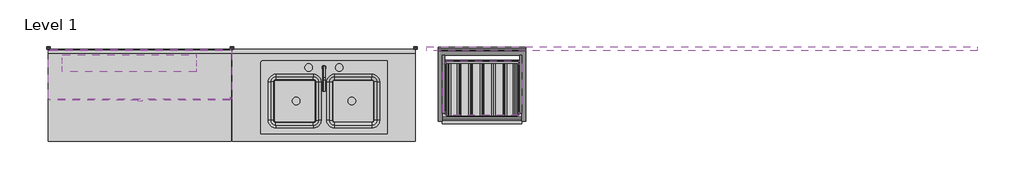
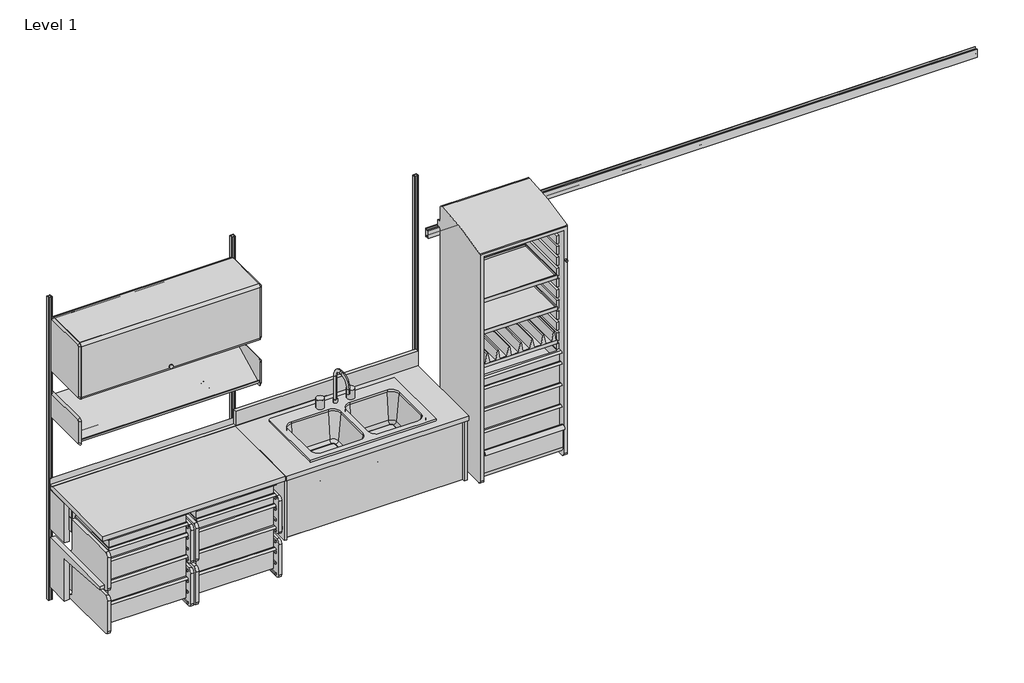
# One storey: 36 furniture elements, 1 light fixture.
"""IFC4 building model written with IfcOpenShell, lengths in millimetres."""

from ifc_helpers import new_model, si_unit, origin, place, context, project, spatial, transform, mapped, element, save
from components import furniture_d92eedc3, furniture_1dd29d47, furniture_6fb4d38e, furniture_1862b397, furniture_b82473b3, furniture_e3b85a83, furniture_ac9ddba1, furniture_b5d96ffa, furniture_ea4a19f1, furniture_bde3683d, furniture_de886b3f, furniture_abf15333, furniture_2c2a0f93, furniture_4a924b53, furniture_326329ec, furniture_ea425779, a_3_99eb42a9, a_3_20021f84, a_3_c1a7feba, b_6_ff784f8a, b_6_0a80589c, b_6_5c18262e, b_6_79354f33, b_6_c41737b1, b_6_7aba6d1f, b_6_3d2ec204, b_6_4c31ebbb, b_6_ad6fc926, standard_144w_a9847ba4, light_fixture_a1dc7b85

model = new_model("IFC4")

# Units and contexts
model_context = context("Model", 3, world=origin())
ifc_project = project(units=[si_unit("LENGTHUNIT", "METRE", prefix="MILLI")], contexts=[model_context])

# Site, building, storey
site = spatial("IfcSite", under=ifc_project)
building = spatial("IfcBuilding", under=site)
storey = spatial("IfcBuildingStorey", under=building, Name="Level 1", Elevation=0.0)

# Furniture
placement = place(None, origin())
furniture_shape = furniture_d92eedc3(model_context)
element("IfcFurniture", 1, ObjectType="HermanMiller_CoStruc_C2910_WorkSurfaceBacksplash : 3\"H x 72\"W", at=placement, inside=storey, context=model_context, shape_type="MappedRepresentation", body=[
    mapped(furniture_shape, transform((914.4, -19.05, 0.0), x_axis=(1.0, 0.0, 0.0), y_axis=(0.0, 1.0, 0.0), z_axis=(0.0, 0.0, 1.0))),
])
furniture_2_shape = furniture_1dd29d47(model_context)
element("IfcFurniture", 2, ObjectType="HermanMiller_CoStruc_C2192_CFrameSupport : 11\"H x 24\"D x 48\"W", at=placement, inside=storey, context=model_context, shape_type="MappedRepresentation", body=[
    mapped(furniture_2_shape, transform((609.6, 107.15625, 0.0), x_axis=(1.0, 0.0, 0.0), y_axis=(0.0, 1.0, 0.0), z_axis=(0.0, 0.0, 1.0))),
])
furniture_3_shape = furniture_6fb4d38e(model_context)
element("IfcFurniture", 3, ObjectType="HermanMiller_CoStruc_CO242_Subdivider Vane : 2 5/8\"Hx13 3/4\"D x 18 1/2\"W", at=placement, inside=storey, context=model_context, shape_type="MappedRepresentation", body=[
    mapped(furniture_3_shape, transform((2880.5390317, -286.23514, 0.0), x_axis=(1.0, 0.0, 0.0), y_axis=(0.0, 1.0, 0.0), z_axis=(0.0, 0.0, 1.0))),
])
furniture_4_shape = furniture_1862b397(model_context)
element("IfcFurniture", 4, ObjectType="HermanMiller_CoStruc_CO203_CTrayShelf : 14\"D x 20\"W", at=placement, inside=storey, context=model_context, shape_type="MappedRepresentation", body=[
    mapped(furniture_4_shape, transform((2882.19388, -275.50364, 0.0), x_axis=(-1.0, 0.0, 0.0), y_axis=(0.0, -1.0, 0.0), z_axis=(0.0, 0.0, 1.0))),
])
furniture_5_shape = furniture_b82473b3(model_context)
element("IfcFurniture", 5, ObjectType="HermanMiller_CoStruc_CO203_CTrayShelf : 14\"D x 20\"W", at=placement, inside=storey, context=model_context, shape_type="MappedRepresentation", body=[
    mapped(furniture_5_shape, transform((2882.19388, -275.50364, 0.0), x_axis=(-1.0, 0.0, 0.0), y_axis=(0.0, -1.0, 0.0), z_axis=(0.0, 0.0, 1.0))),
])
furniture_6_shape = furniture_e3b85a83(model_context)
element("IfcFurniture", 6, ObjectType="HermanMiller_CoStruc_CO203_CTrayShelf : 14\"D x 20\"W", at=placement, inside=storey, context=model_context, shape_type="MappedRepresentation", body=[
    mapped(furniture_6_shape, transform((2882.19388, -275.50364, 0.0), x_axis=(-1.0, 0.0, 0.0), y_axis=(0.0, -1.0, 0.0), z_axis=(0.0, 0.0, 1.0))),
])
furniture_7_shape = furniture_ac9ddba1(model_context)
element("IfcFurniture", 7, ObjectType="HermanMiller_CoStruc_CO561_LockerWithTambourDoor : 66\"H x 20\"D x 22\"W Wlock", at=placement, inside=storey, context=model_context, shape_type="MappedRepresentation", body=[
    mapped(furniture_7_shape, transform((2880.54542, -249.27052, 0.0), x_axis=(1.0, 0.0, 0.0), y_axis=(0.0, 1.0, 0.0), z_axis=(0.0, 0.0, 1.0))),
])
furniture_8_shape = furniture_b5d96ffa(model_context)
element("IfcFurniture", 8, ObjectType="HermanMiller_CoStruc_C2142_StandardDutyWork Surface_WithSink : 24\"D x 48\"W Solid W/Dbl Sink", at=placement, inside=storey, context=model_context, shape_type="MappedRepresentation", body=[
    mapped(furniture_8_shape, transform((1828.8, -196.85, 0.0), x_axis=(1.0, 0.0, 0.0), y_axis=(0.0, 1.0, 0.0), z_axis=(0.0, 0.0, 1.0))),
])
furniture_9_shape = furniture_ea4a19f1(model_context)
element("IfcFurniture", 9, ObjectType="HermanMiller_CoStruc_C2512_SinkModule : 18\"H x 24\"D x 48\"W", at=placement, inside=storey, context=model_context, shape_type="MappedRepresentation", body=[
    mapped(furniture_9_shape, transform((1827.23536, -187.325, 0.0), x_axis=(1.0, 0.0, 0.0), y_axis=(0.0, 1.0, 0.0), z_axis=(0.0, 0.0, 1.0))),
])
furniture_10_shape = furniture_bde3683d(model_context)
element("IfcFurniture", 10, ObjectType="HermanMiller_CoStruc_CO205_CFrame : 10\"H x 17\"D x 22\"W", at=placement, inside=storey, context=model_context, shape_type="MappedRepresentation", body=[
    mapped(furniture_10_shape, transform((224.2132951, -271.6421197, 0.0), x_axis=(1.0, 0.0, 0.0), y_axis=(0.0, 1.0, 0.0), z_axis=(0.0, 0.0, 1.0))),
])
element("IfcFurniture", 11, ObjectType="HermanMiller_CoStruc_CO205_CFrame : 10\"H x 17\"D x 22\"W", at=placement, inside=storey, context=model_context, shape_type="MappedRepresentation", body=[
    mapped(furniture_10_shape, transform((810.0947751, -271.6421197, 0.0), x_axis=(1.0, 0.0, 0.0), y_axis=(0.0, 1.0, 0.0), z_axis=(0.0, 0.0, 1.0))),
])
furniture_11_shape = furniture_de886b3f(model_context)
element("IfcFurniture", 12, ObjectType="HermanMiller_CoStruc_C2141_Heavy-DutyWorkSurface : 24\"D x 48\"W Lam", at=placement, inside=storey, context=model_context, shape_type="MappedRepresentation", body=[
    mapped(furniture_11_shape, transform((303.23536, -196.85, 0.0), x_axis=(1.0, 0.0, 0.0), y_axis=(0.0, 1.0, 0.0), z_axis=(0.0, 0.0, 1.0))),
])
furniture_12_shape = furniture_abf15333(model_context)
element("IfcFurniture", 13, ObjectType="HermanMiller_CoStruc_C2140W_WorkSurfaceSupport_ComponentAdaptor : 14\"H x 24\"D x 48\"W", at=placement, inside=storey, context=model_context, shape_type="MappedRepresentation", body=[
    mapped(furniture_12_shape, transform((608.03536, -196.85, 0.0), x_axis=(1.0, 0.0, 0.0), y_axis=(0.0, 1.0, 0.0), z_axis=(0.0, 0.0, 1.0))),
])
furniture_13_shape = furniture_2c2a0f93(model_context)
element("IfcFurniture", 14, ObjectType="HermanMiller_CoStruc_CO205_CFrame : 10\"H x 17\"D x 22\"W", at=placement, inside=storey, context=model_context, shape_type="MappedRepresentation", body=[
    mapped(furniture_13_shape, transform((224.2132951, -271.6421197, 0.0), x_axis=(1.0, 0.0, 0.0), y_axis=(0.0, 1.0, 0.0), z_axis=(0.0, 0.0, 1.0))),
])
element("IfcFurniture", 15, ObjectType="HermanMiller_CoStruc_CO205_CFrame : 10\"H x 17\"D x 22\"W", at=placement, inside=storey, context=model_context, shape_type="MappedRepresentation", body=[
    mapped(furniture_13_shape, transform((810.0947751, -271.6421197, 0.0), x_axis=(1.0, 0.0, 0.0), y_axis=(0.0, 1.0, 0.0), z_axis=(0.0, 0.0, 1.0))),
])
furniture_14_shape = furniture_4a924b53(model_context)
element("IfcFurniture", 16, ObjectType="HermanMiller_ActionOffice_A3220_B-StyleStorageDisplay : Display 13\"D x 48\"W", at=placement, inside=storey, context=model_context, shape_type="MappedRepresentation", body=[
    mapped(furniture_14_shape, transform((733.5420045, -200.025, 0.0), x_axis=(1.0, 0.0, 0.0), y_axis=(0.0, 1.0, 0.0), z_axis=(0.0, 0.0, 1.0))),
])
furniture_15_shape = furniture_326329ec(model_context)
element("IfcFurniture", 17, ObjectType="HermanMiller_ActionOffice_A3352_B-StyleFlipperDoorUnit : 15 1/2\"H x 13\"D x 48\"W", at=placement, inside=storey, context=model_context, shape_type="MappedRepresentation", body=[
    mapped(furniture_15_shape, transform((609.6, -200.025, 0.0), x_axis=(1.0, 0.0, 0.0), y_axis=(0.0, 1.0, 0.0), z_axis=(0.0, 0.0, 1.0))),
])
furniture_16_shape = furniture_ea425779(model_context)
element("IfcFurniture", 18, ObjectType="HermanMiller_ActionOffice_AO213_WallStrip : 84\"H", at=placement, inside=storey, context=model_context, shape_type="MappedRepresentation", body=[
    mapped(furniture_16_shape, transform((2438.4, 0.0, 0.0), x_axis=(1.0, 0.0, 0.0), y_axis=(0.0, 1.0, 0.0), z_axis=(0.0, 0.0, 1.0))),
])
element("IfcFurniture", 19, ObjectType="HermanMiller_ActionOffice_AO213_WallStrip : 84\"H", at=placement, inside=storey, context=model_context, shape_type="MappedRepresentation", body=[
    mapped(furniture_16_shape, transform((0.0, 0.0, 0.0), x_axis=(1.0, 0.0, 0.0), y_axis=(0.0, 1.0, 0.0), z_axis=(0.0, 0.0, 1.0))),
])
element("IfcFurniture", 20, ObjectType="HermanMiller_ActionOffice_AO213_WallStrip : 84\"H", at=placement, inside=storey, context=model_context, shape_type="MappedRepresentation", body=[
    mapped(furniture_16_shape, transform((1219.2, 0.0, 0.0), x_axis=(1.0, 0.0, 0.0), y_axis=(0.0, 1.0, 0.0), z_axis=(0.0, 0.0, 1.0))),
])
a_3_shape = a_3_99eb42a9(model_context)
element("IfcFurniture", 21, ObjectType="HermanMiller_CoStruc_CO207_Drawer : A - 3", at=placement, inside=storey, context=model_context, shape_type="MappedRepresentation", body=[
    mapped(a_3_shape, transform((2880.5390317, -285.05404, 0.0), x_axis=(1.0, 0.0, 0.0), y_axis=(0.0, 1.0, 0.0), z_axis=(0.0, 0.0, 1.0))),
])
a_3_2_shape = a_3_20021f84(model_context)
element("IfcFurniture", 22, ObjectType="HermanMiller_CoStruc_CO207_Drawer : A - 3", at=placement, inside=storey, context=model_context, shape_type="MappedRepresentation", body=[
    mapped(a_3_2_shape, transform((898.1833317, -419.20922, 0.0), x_axis=(1.0, 0.0, 0.0), y_axis=(0.0, 1.0, 0.0), z_axis=(0.0, 0.0, 1.0))),
])
element("IfcFurniture", 23, ObjectType="HermanMiller_CoStruc_CO207_Drawer : A - 3", at=placement, inside=storey, context=model_context, shape_type="MappedRepresentation", body=[
    mapped(a_3_2_shape, transform((313.8893517, -419.20922, 0.0), x_axis=(1.0, 0.0, 0.0), y_axis=(0.0, 1.0, 0.0), z_axis=(0.0, 0.0, 1.0))),
])
a_3_3_shape = a_3_c1a7feba(model_context)
element("IfcFurniture", 24, ObjectType="HermanMiller_CoStruc_CO207_Drawer : A - 3", at=placement, inside=storey, context=model_context, shape_type="MappedRepresentation", body=[
    mapped(a_3_3_shape, transform((898.1833317, -419.20922, 0.0), x_axis=(1.0, 0.0, 0.0), y_axis=(0.0, 1.0, 0.0), z_axis=(0.0, 0.0, 1.0))),
])
element("IfcFurniture", 25, ObjectType="HermanMiller_CoStruc_CO207_Drawer : A - 3", at=placement, inside=storey, context=model_context, shape_type="MappedRepresentation", body=[
    mapped(a_3_3_shape, transform((313.8893517, -419.20922, 0.0), x_axis=(1.0, 0.0, 0.0), y_axis=(0.0, 1.0, 0.0), z_axis=(0.0, 0.0, 1.0))),
])
b_6_shape = b_6_ff784f8a(model_context)
element("IfcFurniture", 26, ObjectType="HermanMiller_CoStruc_CO207_Drawer : B - 6", at=placement, inside=storey, context=model_context, shape_type="MappedRepresentation", body=[
    mapped(b_6_shape, transform((2880.5390317, -285.05404, 0.0), x_axis=(1.0, 0.0, 0.0), y_axis=(0.0, 1.0, 0.0), z_axis=(0.0, 0.0, 1.0))),
])
b_6_2_shape = b_6_0a80589c(model_context)
element("IfcFurniture", 27, ObjectType="HermanMiller_CoStruc_CO207_Drawer : B - 6", at=placement, inside=storey, context=model_context, shape_type="MappedRepresentation", body=[
    mapped(b_6_2_shape, transform((2880.5390317, -285.05404, 0.0), x_axis=(1.0, 0.0, 0.0), y_axis=(0.0, 1.0, 0.0), z_axis=(0.0, 0.0, 1.0))),
])
b_6_3_shape = b_6_5c18262e(model_context)
element("IfcFurniture", 28, ObjectType="HermanMiller_CoStruc_CO207_Drawer : B - 6", at=placement, inside=storey, context=model_context, shape_type="MappedRepresentation", body=[
    mapped(b_6_3_shape, transform((2880.5390317, -285.05404, 0.0), x_axis=(1.0, 0.0, 0.0), y_axis=(0.0, 1.0, 0.0), z_axis=(0.0, 0.0, 1.0))),
])
b_6_4_shape = b_6_79354f33(model_context)
element("IfcFurniture", 29, ObjectType="HermanMiller_CoStruc_CO207_Drawer : B - 6", at=placement, inside=storey, context=model_context, shape_type="MappedRepresentation", body=[
    mapped(b_6_4_shape, transform((2880.5390317, -285.05404, 0.0), x_axis=(1.0, 0.0, 0.0), y_axis=(0.0, 1.0, 0.0), z_axis=(0.0, 0.0, 1.0))),
])
b_6_5_shape = b_6_c41737b1(model_context)
element("IfcFurniture", 30, ObjectType="HermanMiller_CoStruc_CO207_Drawer : B - 6", at=placement, inside=storey, context=model_context, shape_type="MappedRepresentation", body=[
    mapped(b_6_5_shape, transform((898.1833317, -419.20922, 0.0), x_axis=(1.0, 0.0, 0.0), y_axis=(0.0, 1.0, 0.0), z_axis=(0.0, 0.0, 1.0))),
])
b_6_6_shape = b_6_7aba6d1f(model_context)
element("IfcFurniture", 31, ObjectType="HermanMiller_CoStruc_CO207_Drawer : B - 6", at=placement, inside=storey, context=model_context, shape_type="MappedRepresentation", body=[
    mapped(b_6_6_shape, transform((898.1833317, -419.20922, 0.0), x_axis=(1.0, 0.0, 0.0), y_axis=(0.0, 1.0, 0.0), z_axis=(0.0, 0.0, 1.0))),
])
b_6_7_shape = b_6_3d2ec204(model_context)
element("IfcFurniture", 32, ObjectType="HermanMiller_CoStruc_CO207_Drawer : B - 6", at=placement, inside=storey, context=model_context, shape_type="MappedRepresentation", body=[
    mapped(b_6_7_shape, transform((898.1833317, -419.20922, 0.0), x_axis=(1.0, 0.0, 0.0), y_axis=(0.0, 1.0, 0.0), z_axis=(0.0, 0.0, 1.0))),
])
element("IfcFurniture", 33, ObjectType="HermanMiller_CoStruc_CO207_Drawer : B - 6", at=placement, inside=storey, context=model_context, shape_type="MappedRepresentation", body=[
    mapped(b_6_7_shape, transform((313.8893517, -419.20922, 0.0), x_axis=(1.0, 0.0, 0.0), y_axis=(0.0, 1.0, 0.0), z_axis=(0.0, 0.0, 1.0))),
])
b_6_8_shape = b_6_4c31ebbb(model_context)
element("IfcFurniture", 34, ObjectType="HermanMiller_CoStruc_CO207_Drawer : B - 6", at=placement, inside=storey, context=model_context, shape_type="MappedRepresentation", body=[
    mapped(b_6_8_shape, transform((312.3018517, -419.20922, 0.0), x_axis=(1.0, 0.0, 0.0), y_axis=(0.0, 1.0, 0.0), z_axis=(0.0, 0.0, 1.0))),
])
b_6_9_shape = b_6_ad6fc926(model_context)
element("IfcFurniture", 35, ObjectType="HermanMiller_CoStruc_CO207_Drawer : B - 6", at=placement, inside=storey, context=model_context, shape_type="MappedRepresentation", body=[
    mapped(b_6_9_shape, transform((312.3018517, -419.20922, 0.0), x_axis=(1.0, 0.0, 0.0), y_axis=(0.0, 1.0, 0.0), z_axis=(0.0, 0.0, 1.0))),
])
standard_144w_shape = standard_144w_a9847ba4(model_context)
element("IfcFurniture", 36, ObjectType="HermanMiller_CoStruc_CO282_StandardRail : Standard 144W", at=placement, inside=storey, context=model_context, shape_type="MappedRepresentation", body=[
    mapped(standard_144w_shape, transform((4410.7205525, 0.0, 0.0), x_axis=(1.0, 0.0, 0.0), y_axis=(0.0, 1.0, 0.0), z_axis=(0.0, 0.0, 1.0))),
])

# Light fixture
light_fixture_shape = light_fixture_a1dc7b85(model_context)
element("IfcLightFixture", 37, ObjectType="HermanMiller_SupplementalProducts_G6136_UtilityTaskLight : AO Etho Canvas 42W", at=placement, inside=storey, context=model_context, shape_type="MappedRepresentation", body=[
    mapped(light_fixture_shape, transform((537.718, -111.125, 0.0), x_axis=(1.0, 0.0, 0.0), y_axis=(0.0, 1.0, 0.0), z_axis=(0.0, 0.0, 1.0))),
])

save(model, "model.ifc")
